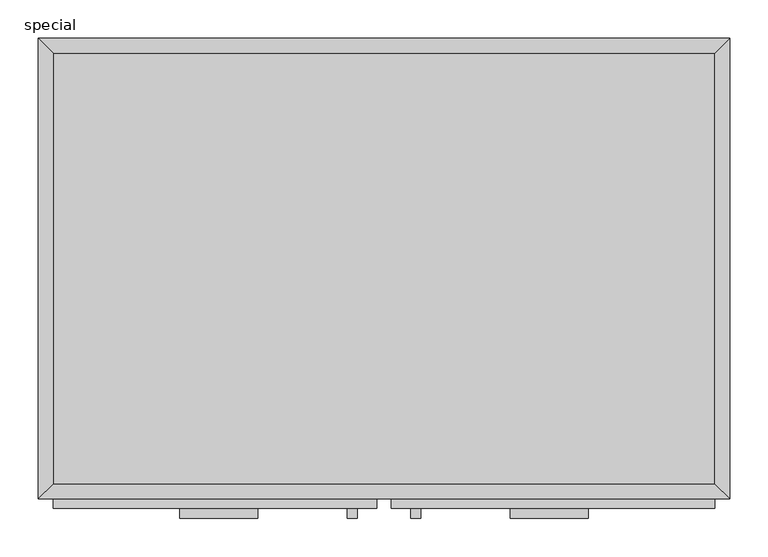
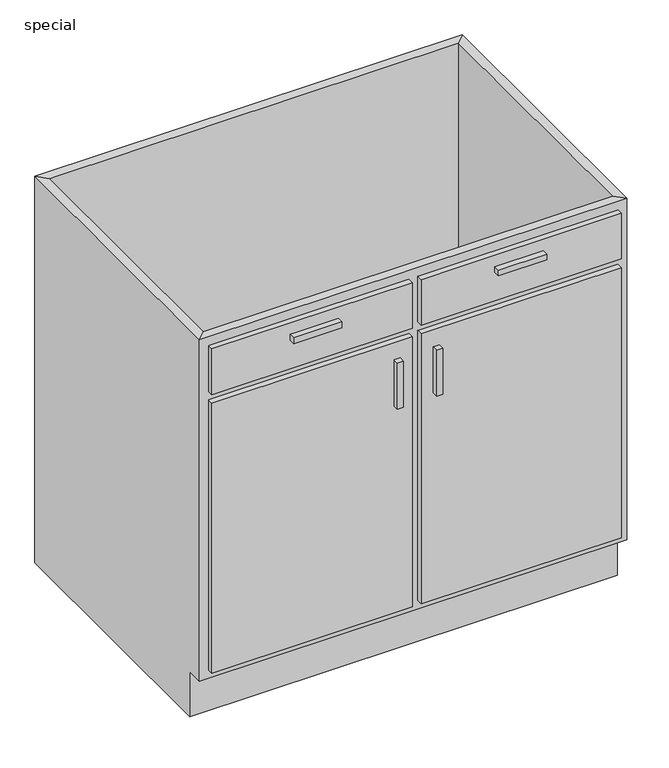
"""IFC4 building model written with IfcOpenShell, lengths in millimetres: furniture geometry, M_Base Cabinet-Double Door & 2 Drawer : special."""

import ifcopenshell
import ifcopenshell.guid

model = None  # the IFC model being written
_history = None  # IfcOwnerHistory: only IFC2X3 demands one
_inside = {}  # id of a spatial element -> (the spatial element, [elements in it])
_under = {}  # id of a project, library or spatial element -> (it, [spatial elements below it])
_declared = {}  # id of a project -> (the project, [libraries it declares])
_typed = {}  # id of a type object -> (the type object, [elements of that type])
_made_of = {}  # id of a material, layer set ... -> (it, [elements and type objects made of it])


def new_model(schema):
    """Start an empty IFC model of exactly this schema.

    Asked for "IFC4X3", IfcOpenShell would pick the latest addendum, in which some entities
    have other attributes; the version numbers below select the first issue.
    IFC2X3 requires an IfcOwnerHistory on every rooted entity: one is made here for all.
    """
    global model, _history
    if schema == "IFC4X3":
        model = ifcopenshell.file(schema_version=(4, 3, 0, 0))
    else:
        model = ifcopenshell.file(schema=schema)
    _inside.clear()
    _under.clear()
    _declared.clear()
    _typed.clear()
    _made_of.clear()
    _history = None
    if model.schema == "IFC2X3":
        org = make("IfcOrganization", Name="unknown")
        user = make(
            "IfcPersonAndOrganization",
            ThePerson=make("IfcPerson", FamilyName="unknown"),
            TheOrganization=org,
        )
        app = make(
            "IfcApplication",
            ApplicationDeveloper=org,
            Version="unknown",
            ApplicationFullName="unknown",
            ApplicationIdentifier="unknown",
        )
        _history = make(
            "IfcOwnerHistory",
            OwningUser=user,
            OwningApplication=app,
            ChangeAction="ADDED",
            CreationDate=0,
        )
    return model


def make(cls, **values):
    """One entity of the class cls with the attributes given. An attribute that is None is left unset."""
    return model.create_entity(
        cls, **{name: value for name, value in values.items() if value is not None}
    )


def rooted(cls, **values):
    """An entity with a GlobalId (a new one), such as an element, a storey or a relation."""
    return make(cls, GlobalId=ifcopenshell.guid.new(), OwnerHistory=_history, **values)


def si_unit(unit_type, name, prefix=None):
    """IfcSIUnit, for example si_unit("LENGTHUNIT", "METRE", prefix="MILLI")."""
    return make("IfcSIUnit", UnitType=unit_type, Prefix=prefix, Name=name)


def assignment(units):
    """IfcUnitAssignment: the units of a project."""
    return None if units is None else make("IfcUnitAssignment", Units=units)


def point(xyz):
    """IfcCartesianPoint."""
    return None if xyz is None else make("IfcCartesianPoint", Coordinates=xyz)


def direction(xyz):
    """IfcDirection."""
    return None if xyz is None else make("IfcDirection", DirectionRatios=xyz)


def frame(location, z_axis=None, x_axis=None):
    """IfcAxis2Placement3D, a coordinate frame: its origin and axes. An axis left out is left unset."""
    return make(
        "IfcAxis2Placement3D",
        Location=point(location),
        Axis=direction(z_axis),
        RefDirection=direction(x_axis),
    )


def origin():
    """The frame at (0, 0, 0) with its axes left unset."""
    return frame((0.0, 0.0, 0.0))


def place(relative_to, where):
    """IfcLocalPlacement: puts the frame where relative to a parent placement (None: the world)."""
    return make(
        "IfcLocalPlacement", PlacementRelTo=relative_to, RelativePlacement=where
    )


def context(
    kind, dimensions, precision=None, world=None, true_north=None, identifier=None
):
    """IfcGeometricRepresentationContext, for example the 3D "Model" context."""
    return make(
        "IfcGeometricRepresentationContext",
        ContextIdentifier=identifier,
        ContextType=kind,
        CoordinateSpaceDimension=dimensions,
        Precision=precision,
        WorldCoordinateSystem=world,
        TrueNorth=true_north,
    )


def project(units=None, contexts=None):
    """IfcProject with its units and contexts."""
    return rooted(
        "IfcProject",
        Name="project",
        RepresentationContexts=contexts,
        UnitsInContext=assignment(units),
    )


def spatial(cls, under=None, at=None, **own):
    """A site, building, storey or space (cls), placed at a placement, below another one or the project."""
    s = rooted(cls, ObjectPlacement=at, **own)
    if under is not None:
        _under.setdefault(under.id(), (under, []))[1].append(s)
    return s


def polyline(points):
    """IfcPolyline through the points."""
    return make("IfcPolyline", Points=[point(p) for p in points])


def outline(outer, holes=None, kind="AREA"):
    """IfcArbitraryClosedProfileDef: a profile drawn as a closed curve; with holes, ...WithVoids."""
    if holes is None:
        return make("IfcArbitraryClosedProfileDef", ProfileType=kind, OuterCurve=outer)
    return make(
        "IfcArbitraryProfileDefWithVoids",
        ProfileType=kind,
        OuterCurve=outer,
        InnerCurves=holes,
    )


def extrude(swept, where, along, depth):
    """IfcExtrudedAreaSolid: the profile swept, set in the frame where, extruded along a direction by depth."""
    return make(
        "IfcExtrudedAreaSolid",
        SweptArea=swept,
        Position=where,
        ExtrudedDirection=direction(along),
        Depth=depth,
    )


def faces_of(points, faces, orient=None, outer=None):
    """IfcFace entities. A face is a list of loops; a loop is a list of indices into points, from 0.

    orient and outer hold one flag for each loop. By default every Orientation is true, the
    first loop of a face is its IfcFaceOuterBound and the others are IfcFaceBound.
    """
    made = []
    for i, loops in enumerate(faces):
        bounds = []
        for j, loop in enumerate(loops):
            is_outer = j == 0 if outer is None else outer[i][j]
            bounds.append(
                make(
                    "IfcFaceOuterBound" if is_outer else "IfcFaceBound",
                    Bound=make("IfcPolyLoop", Polygon=[points[k] for k in loop]),
                    Orientation=True if orient is None else orient[i][j],
                )
            )
        made.append(make("IfcFace", Bounds=bounds))
    return made


def faceted_brep(points, faces, orient=None, outer=None, voids=None):
    """IfcFacetedBrep: a solid bounded by flat faces; with voids (closed shells), ...WithVoids."""
    shared = [point(p) for p in points]
    hull = make("IfcClosedShell", CfsFaces=faces_of(shared, faces, orient, outer))
    if voids is None:
        return make("IfcFacetedBrep", Outer=hull)
    return make(
        "IfcFacetedBrepWithVoids",
        Outer=hull,
        Voids=[
            make(cls, CfsFaces=faces_of(shared, fs, o, b)) for cls, fs, o, b in voids
        ],
    )


def shape(context_of_items, identifier, shape_type, items):
    """IfcShapeRepresentation: the items that make up one representation, for example the "Body"."""
    return make(
        "IfcShapeRepresentation",
        ContextOfItems=context_of_items,
        RepresentationIdentifier=identifier,
        RepresentationType=shape_type,
        Items=items,
    )


def source(mapping_origin, context_of_items, identifier, shape_type, items):
    """IfcRepresentationMap: a shape defined once, which mapped items show again and again."""
    return make(
        "IfcRepresentationMap",
        MappingOrigin=mapping_origin,
        MappedRepresentation=shape(context_of_items, identifier, shape_type, items),
    )


def transform(
    local_origin,
    x_axis=None,
    y_axis=None,
    z_axis=None,
    scale=None,
    scale2=None,
    scale3=None,
    uniform=True,
):
    """IfcCartesianTransformationOperator3D, or its non-uniform kind. x_axis, y_axis, z_axis: its Axis1, 2, 3."""
    if uniform:
        return make(
            "IfcCartesianTransformationOperator3D",
            Axis1=direction(x_axis),
            Axis2=direction(y_axis),
            LocalOrigin=point(local_origin),
            Scale=scale,
            Axis3=direction(z_axis),
        )
    return make(
        "IfcCartesianTransformationOperator3DnonUniform",
        Axis1=direction(x_axis),
        Axis2=direction(y_axis),
        LocalOrigin=point(local_origin),
        Scale=scale,
        Axis3=direction(z_axis),
        Scale2=scale2,
        Scale3=scale3,
    )


def mapped(mapping_source, mapping_target):
    """IfcMappedItem: shows the shape of a source again, moved by a transform."""
    return make(
        "IfcMappedItem", MappingSource=mapping_source, MappingTarget=mapping_target
    )


def made_of(thing, what):
    """Note that an element or type object is made of a material, layer set ...; save() writes the relation."""
    if what is not None:
        _made_of.setdefault(what.id(), (what, []))[1].append(thing)
    return thing


def element(
    cls,
    number,
    at=None,
    inside=None,
    cuts=None,
    type_object=None,
    material=None,
    context=None,
    identifier="Body",
    shape_type=None,
    held_by="IfcProductDefinitionShape",
    body=None,
    shapes=None,
    **own,
):
    """One element of the class cls, such as IfcWall. Its Tag is "e" and its number.

    at: its placement. inside: the storey or other place that contains it. cuts: it is an
    opening in that element (IfcRelVoidsElement). A single representation is given by context,
    identifier, shape_type and body (its items); several are given by shapes. held_by: the class
    of the entity that holds the representations. save() writes the other relations.
    """
    e = rooted(cls, Tag="e%d" % number, ObjectPlacement=at, **own)
    if body is not None:
        shapes = [shape(context, identifier, shape_type, body)]
    if shapes is not None:
        e.Representation = make(held_by, Representations=shapes)
    if inside is not None:
        _inside.setdefault(inside.id(), (inside, []))[1].append(e)
    if cuts is not None:
        rooted(
            "IfcRelVoidsElement", RelatingBuildingElement=cuts, RelatedOpeningElement=e
        )
    if type_object is not None:
        _typed.setdefault(type_object.id(), (type_object, []))[1].append(e)
    return made_of(e, material)


def aggregate(whole, parts):
    """IfcRelAggregates: a whole, such as a stair, and the parts it consists of."""
    return rooted("IfcRelAggregates", RelatingObject=whole, RelatedObjects=parts)


def save(model, path):
    """Write the relations noted so far, then the file.

    IfcRelAggregates (storeys below a building ...), IfcRelContainedInSpatialStructure (elements
    in a storey), IfcRelDefinesByType, IfcRelAssociatesMaterial and IfcRelDeclares: one each for
    every whole, place, type object, material and project.
    """
    for whole, parts in _under.values():
        aggregate(whole, parts)
    for where, things in _inside.values():
        rooted(
            "IfcRelContainedInSpatialStructure",
            RelatedElements=things,
            RelatingStructure=where,
        )
    for kind, things in _typed.values():
        rooted("IfcRelDefinesByType", RelatedObjects=things, RelatingType=kind)
    for what, things in _made_of.values():
        rooted("IfcRelAssociatesMaterial", RelatedObjects=things, RelatingMaterial=what)
    for by, libraries in _declared.values():
        rooted("IfcRelDeclares", RelatingContext=by, RelatedDefinitions=libraries)
    model.write(path)


def special_ad59d58f(model_context):
    return source(origin(), model_context, "Body", "SolidModel", [
        faceted_brep([(449.6877049, -580.95, 860.0), (449.6877049, -580.95, 100.0), (-412.2122951, -580.95, 100.0), (-412.2122951, -580.95, 860.0), (-431.2622951, -600.0, 860.0), (468.7377049, -600.0, 860.0), (-431.2622951, -600.0, 100.0), (468.7377049, -600.0, 100.0), (-412.2122951, -565.0, 100.0), (-412.2122951, -19.05, 100.0), (-412.2122951, -19.05, 860.0), (-431.2622951, 0.0, 860.0), (-431.2622951, 0.0, 0.0), (-431.2622951, -565.0, 0.0), (-431.2622951, -565.0, 100.0), (449.6877049, -19.05, 100.0), (449.6877049, -19.05, 860.0), (468.7377049, 0.0, 860.0), (468.7377049, 0.0, 0.0), (449.6877049, -565.0, 100.0), (468.7377049, -565.0, 100.0), (468.7377049, -565.0, 0.0)], [[[0, 1, 2, 3]], [[0, 3, 4, 5]], [[5, 4, 6, 7]], [[2, 1, 7, 6]], [[3, 2, 8, 9, 10]], [[4, 3, 10, 11]], [[6, 4, 11, 12, 13, 14]], [[2, 6, 14, 8]], [[10, 9, 15, 16]], [[11, 10, 16, 17]], [[12, 11, 17, 18]], [[1, 0, 16, 15, 19]], [[0, 5, 17, 16]], [[5, 7, 20, 21, 18, 17]], [[7, 1, 19, 20]], [[8, 19, 15, 9]], [[18, 21, 13, 12]], [[13, 21, 20, 19, 8, 14]]]),
        extrude(outline(polyline([(-145.9372951, -625.4), (-247.5372951, -625.4), (-247.5372951, -612.7), (-145.9372951, -612.7), (-145.9372951, -625.4)])), frame((0.0, 0.0, 802.85), z_axis=(0.0, 0.0, 1.0), x_axis=(1.0, 0.0, 0.0)), (0.0, 0.0, 1.0), 12.7),
        extrude(outline(polyline([(285.0127049, -625.4), (183.4127049, -625.4), (183.4127049, -612.7), (285.0127049, -612.7), (285.0127049, -625.4)])), frame((0.0, 0.0, 802.85), z_axis=(0.0, 0.0, 1.0), x_axis=(1.0, 0.0, 0.0)), (0.0, 0.0, 1.0), 12.7),
        extrude(outline(polyline([(-16.1872951, -625.4), (-28.8872951, -625.4), (-28.8872951, -612.7), (-16.1872951, -612.7), (-16.1872951, -625.4)])), frame((0.0, 0.0, 580.6), z_axis=(0.0, 0.0, 1.0), x_axis=(1.0, 0.0, 0.0)), (0.0, 0.0, 1.0), 101.6),
        extrude(outline(polyline([(66.3627049, -625.4), (53.6627049, -625.4), (53.6627049, -612.7), (66.3627049, -612.7), (66.3627049, -625.4)])), frame((0.0, 0.0, 580.6), z_axis=(0.0, 0.0, 1.0), x_axis=(1.0, 0.0, 0.0)), (0.0, 0.0, 1.0), 101.6),
        extrude(outline(polyline([(9.2127049, -612.7), (-412.2122951, -612.7), (-412.2122951, -600.0), (9.2127049, -600.0), (9.2127049, -612.7)])), frame((0.0, 0.0, 739.35), z_axis=(0.0, 0.0, 1.0), x_axis=(1.0, 0.0, 0.0)), (0.0, 0.0, 1.0), 101.6),
        extrude(outline(polyline([(449.6877049, -612.7), (28.2627049, -612.7), (28.2627049, -600.0), (449.6877049, -600.0), (449.6877049, -612.7)])), frame((0.0, 0.0, 739.35), z_axis=(0.0, 0.0, 1.0), x_axis=(1.0, 0.0, 0.0)), (0.0, 0.0, 1.0), 101.6),
        extrude(outline(polyline([(9.2127049, -612.7), (-412.2122951, -612.7), (-412.2122951, -600.0), (9.2127049, -600.0), (9.2127049, -612.7)])), frame((0.0, 0.0, 119.05), z_axis=(0.0, 0.0, 1.0), x_axis=(1.0, 0.0, 0.0)), (0.0, 0.0, 1.0), 601.25),
        extrude(outline(polyline([(449.6877049, -612.7), (28.2627049, -612.7), (28.2627049, -600.0), (449.6877049, -600.0), (449.6877049, -612.7)])), frame((0.0, 0.0, 119.05), z_axis=(0.0, 0.0, 1.0), x_axis=(1.0, 0.0, 0.0)), (0.0, 0.0, 1.0), 601.25),
        extrude(outline(polyline([(449.6877049, -19.05), (449.6877049, -580.95), (-412.2122951, -580.95), (-412.2122951, -19.05), (449.6877049, -19.05)])), frame((0.0, 0.0, 100.0), z_axis=(0.0, 0.0, 1.0), x_axis=(1.0, 0.0, 0.0)), (0.0, 0.0, 1.0), 19.05),
    ])


if __name__ == "__main__":
    model = new_model("IFC4")
    model_context = context("Model", 3, world=origin())
    ifc_project = project(units=[si_unit("LENGTHUNIT", "METRE", prefix="MILLI")], contexts=[model_context])
    site = spatial("IfcSite", under=ifc_project)
    building = spatial("IfcBuilding", under=site)
    placement = place(None, origin())
    special_shape = special_ad59d58f(model_context)
    element("IfcFurniture", 1, ObjectType="M_Base Cabinet-Double Door & 2 Drawer : special", at=placement, inside=building, context=model_context, shape_type="MappedRepresentation", body=[
        mapped(special_shape, transform((0.0, 0.0, 0.0), x_axis=(1.0, 0.0, 0.0), y_axis=(0.0, 1.0, 0.0), z_axis=(0.0, 0.0, 1.0))),
    ])
    save(model, "model.ifc")
